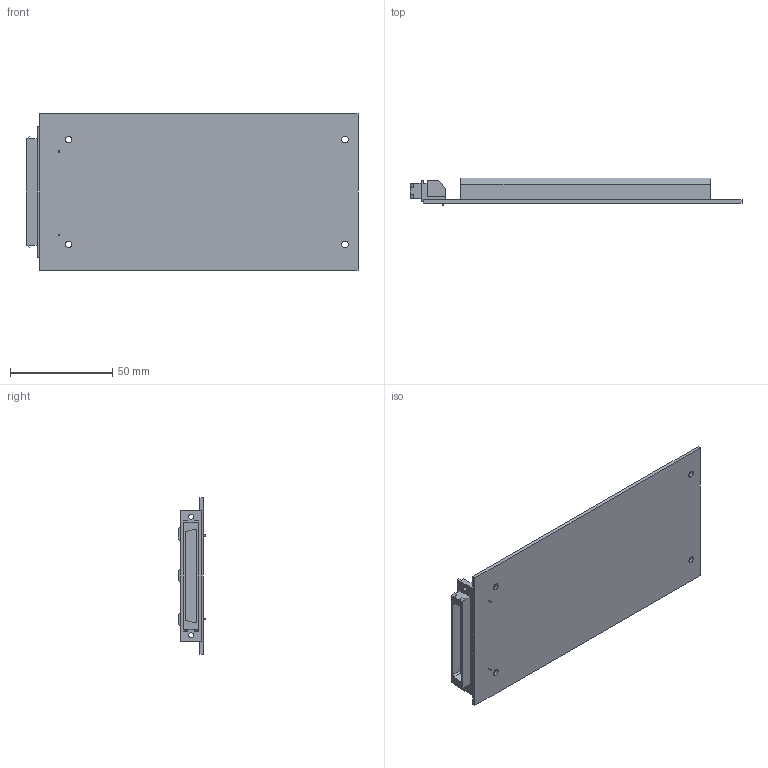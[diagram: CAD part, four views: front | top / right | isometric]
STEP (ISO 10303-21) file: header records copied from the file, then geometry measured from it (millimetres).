
FILE_DESCRIPTION((''),'2;1');
FILE_NAME('CU_CB-68LPR','2007-08-13T',('lmcdanie'),(''),'PRO/ENGINEER BY PARAMETRIC TECHNOLOGY CORPORATION, 2006080','PRO/ENGINEER BY PARAMETRIC TECHNOLOGY CORPORATION, 2006080','');
FILE_SCHEMA(('CONFIG_CONTROL_DESIGN'));
Length unit declared in the file: inch
Products named in the file (1): CU_CB-68LPR
Bounding box: 161.96 x 13.56 x 76.2 mm (x, y, z)
Volume: 62201.6 mm3; surface area: 34070.9 mm2
Topology: 1 solids, 1 shells, 101 faces, 266 edges, 176 vertices
Faces by surface type: plane 77, cylinder 24
Entity records: 3160 total; most frequent: CARTESIAN_POINT 543, ORIENTED_EDGE 532, DIRECTION 516, EDGE_CURVE 266, VECTOR 218, LINE 218, VERTEX_POINT 176, AXIS2_PLACEMENT_3D 149
